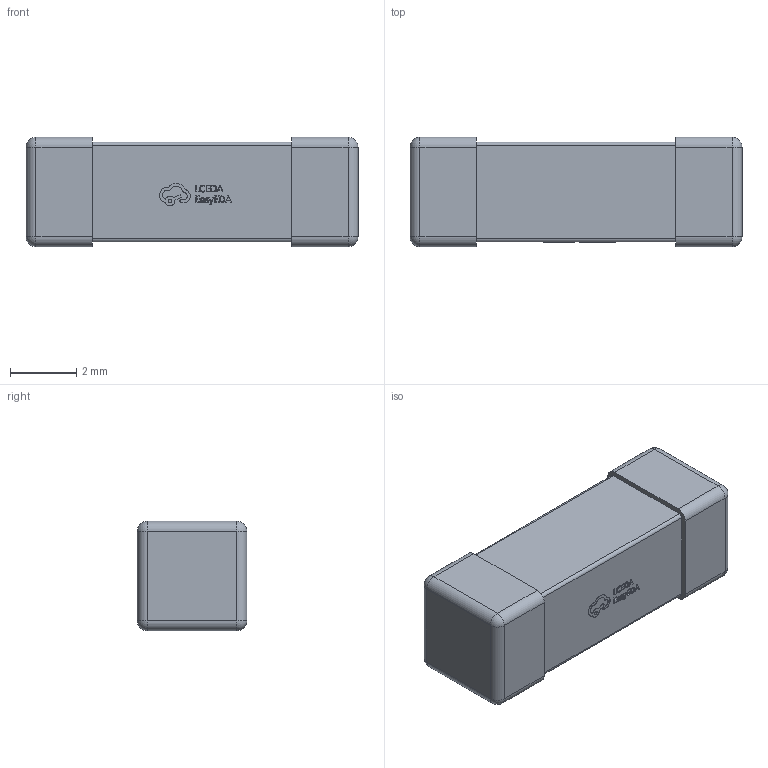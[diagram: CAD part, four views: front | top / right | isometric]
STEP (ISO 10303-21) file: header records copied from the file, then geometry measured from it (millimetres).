
FILE_DESCRIPTION (( 'STEP AP214' ), '1' );
FILE_NAME ('FUSE-SMD_L10.3-W3.3.STEP', '2024-11-16T15:23:47', ( '' ), ( '' ), 'SwSTEP 2.0', 'SolidWorks 2020', '' );
FILE_SCHEMA (( 'AUTOMOTIVE_DESIGN' ));
Length unit declared in the file: millimetre
Products named in the file (1): FUSE-SMD_L10.3-W3.3
Bounding box: 10 x 3.3 x 3.3 mm (x, y, z)
Volume: 96.7 mm3; surface area: 143.8 mm2
Topology: 1 solids, 1 shells, 268 faces, 719 edges, 466 vertices
Faces by surface type: plane 142, bspline 98, cylinder 20, sphere 8
Entity records: 11737 total; most frequent: CARTESIAN_POINT 2752, ORIENTED_EDGE 1422, DIRECTION 893, EDGE_CURVE 711, VECTOR 471, LINE 471, VERTEX_POINT 466, EDGE_LOOP 289
